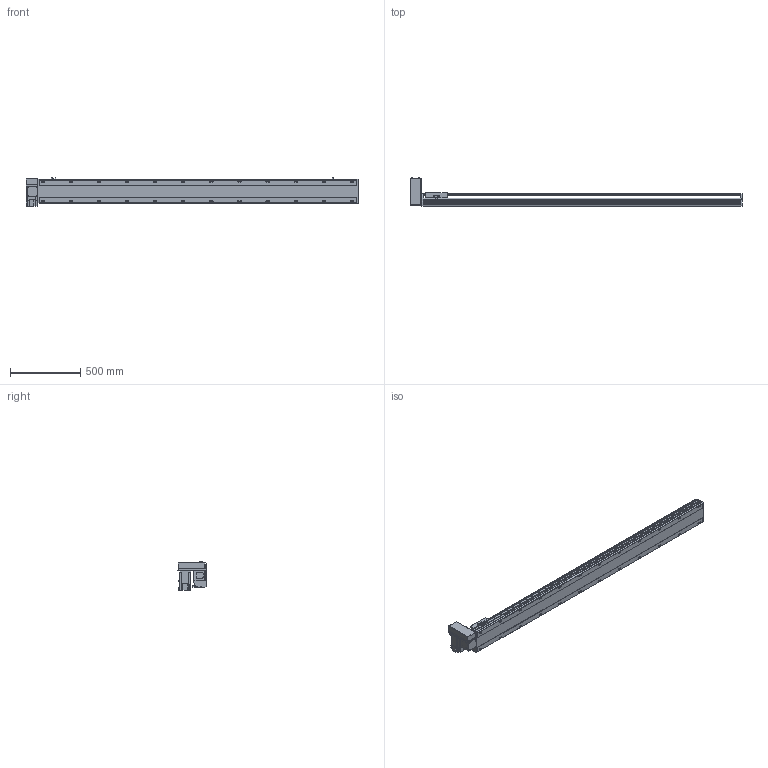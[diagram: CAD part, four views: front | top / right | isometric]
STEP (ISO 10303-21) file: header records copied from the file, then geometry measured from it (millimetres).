
FILE_DESCRIPTION( ( 'STEP AP214' ), '1' );
FILE_NAME( 'x:/temp/worker_5/temp/exporttempdir_3988_138_msVgc/format_0/PBS170-P40-S2000-RU-T75-C1-N(0).stp', '2022-06-08T05:59:59', ( 'License CC BY-ND 4.0' ), ( 'CADENAS' ), ' ', 'PARTsolutions', ' ' );
FILE_SCHEMA( ( 'AUTOMOTIVE_DESIGN { 1 0 10303 214 1 1 1 1 }' ) );
Length unit declared in the file: millimetre
Products named in the file (7): PBS170-P40-S2000-RU-T75-C1-N(0); _PBS170-S2000()_body; _PBS170T-RU_motors; _T75-p1; _PBS170_sliser; _PBS170_plant; _PBS170_sensor
Assembly tree (8 placements, depth 2):
  PBS170-P40-S2000-RU-T75-C1-N(0)
    _PBS170-S2000()_body
    _PBS170T-RU_motors
    _T75-p1
    _PBS170_sliser
    _PBS170_plant
    _PBS170_sensor  x3
Bounding box: 2363 x 206 x 205.3 mm (x, y, z)
Volume: 18117965.5 mm3; surface area: 2298960.7 mm2
Topology: 8 solids, 8 shells, 1146 faces, 3035 edges, 1978 vertices
Faces by surface type: plane 711, cylinder 371, cone 54, sphere 8, torus 2
Full cylindrical faces by diameter (mm): 3.242 x4, 4 x2, 4.4 x4, 4.5 x6, 4.917 x4, 6 x9, 6.647 x32, 7 x2, 7.5 x4, 8 x8, 8.5 x24, 10 x4, 10.5 x24, 11 x2, 30 x2, 40 x1, 70 x1
Entity records: 42308 total; most frequent: CARTESIAN_POINT 6893, DIRECTION 5580, ORIENTED_EDGE 5268, EDGE_CURVE 2634, AXIS2_PLACEMENT_3D 1957, VERTEX_POINT 1826, LINE 1666, VECTOR 1666
